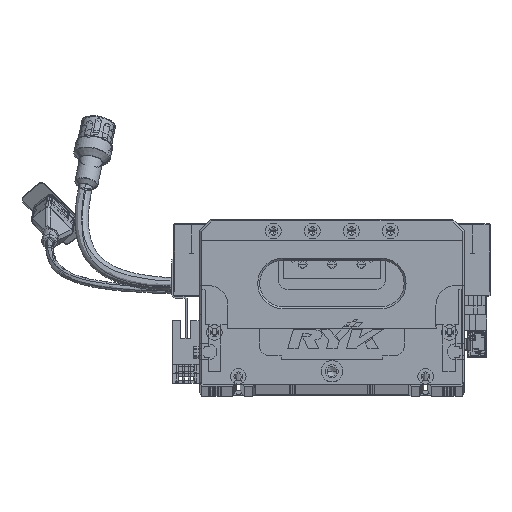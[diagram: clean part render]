
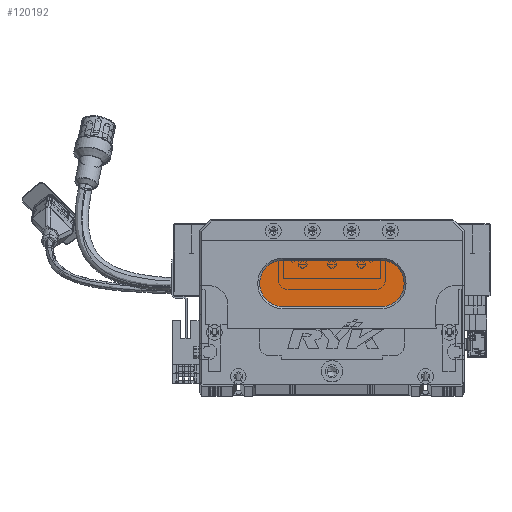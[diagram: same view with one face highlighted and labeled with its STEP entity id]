
A CAD part, top view. The second image highlights one B-rep face of the part: STEP entity #120192.
In plain terms, the highlighted planar face has unit normal (0, 0, 1) as drawn and (0, 0, -1) by its records, which use the part's own axes.
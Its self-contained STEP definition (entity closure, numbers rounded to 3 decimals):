
#505 = DIRECTION ( 'NONE',  ( -1., 0., 0. ) ) ;
#634 = EDGE_CURVE ( 'NONE', #50966, #24465, #35161, .T. ) ;
#3239 = ORIENTED_EDGE ( 'NONE', *, *, #20357, .T. ) ;
#6149 = DIRECTION ( 'NONE',  ( 0., 0., -1. ) ) ;
#10409 = DIRECTION ( 'NONE',  ( -1., 0., 0. ) ) ;
#14135 = CIRCLE ( 'NONE', #117006, 12. ) ;
#15301 = VERTEX_POINT ( 'NONE', #91779 ) ;
#20357 = EDGE_CURVE ( 'NONE', #45405, #50966, #65180, .T. ) ;
#20906 = AXIS2_PLACEMENT_3D ( 'NONE', #53288, #130375, #10409 ) ;
#23777 = DIRECTION ( 'NONE',  ( 0., 0., -1. ) ) ;
#24465 = VERTEX_POINT ( 'NONE', #97823 ) ;
#35161 = LINE ( 'NONE', #120465, #131628 ) ;
#44682 = EDGE_LOOP ( 'NONE', ( #3239, #98803, #74180, #58525, #113207 ) ) ;
#45405 = VERTEX_POINT ( 'NONE', #130602 ) ;
#46580 = VERTEX_POINT ( 'NONE', #55493 ) ;
#49489 = EDGE_CURVE ( 'NONE', #46580, #15301, #14135, .T. ) ;
#50966 = VERTEX_POINT ( 'NONE', #123329 ) ;
#53288 = CARTESIAN_POINT ( 'NONE',  ( 43., 52., 13. ) ) ;
#55493 = CARTESIAN_POINT ( 'NONE',  ( 31., 52., 13. ) ) ;
#58525 = ORIENTED_EDGE ( 'NONE', *, *, #49489, .T. ) ;
#60762 = CARTESIAN_POINT ( 'NONE',  ( 43., 52., 13. ) ) ;
#65180 = CIRCLE ( 'NONE', #98347, 12. ) ;
#67103 = DIRECTION ( 'NONE',  ( -1., 0., 0. ) ) ;
#72917 = VECTOR ( 'NONE', #112170, 1000. ) ;
#74180 = ORIENTED_EDGE ( 'NONE', *, *, #93414, .T. ) ;
#77942 = LINE ( 'NONE', #134321, #72917 ) ;
#88489 = PLANE ( 'NONE',  #110154 ) ;
#91779 = CARTESIAN_POINT ( 'NONE',  ( 43., 64., 13. ) ) ;
#93414 = EDGE_CURVE ( 'NONE', #24465, #46580, #128874, .T. ) ;
#97823 = CARTESIAN_POINT ( 'NONE',  ( 43., 40., 13. ) ) ;
#98245 = CARTESIAN_POINT ( 'NONE',  ( 93., 52., 13. ) ) ;
#98347 = AXIS2_PLACEMENT_3D ( 'NONE', #98245, #98728, #505 ) ;
#98728 = DIRECTION ( 'NONE',  ( 0., 0., -1. ) ) ;
#98803 = ORIENTED_EDGE ( 'NONE', *, *, #634, .T. ) ;
#98924 = CARTESIAN_POINT ( 'NONE',  ( 93., 52., 13. ) ) ;
#100053 = EDGE_CURVE ( 'NONE', #15301, #45405, #77942, .T. ) ;
#110154 = AXIS2_PLACEMENT_3D ( 'NONE', #98924, #23777, #67103 ) ;
#112170 = DIRECTION ( 'NONE',  ( 1., 0., 0. ) ) ;
#113207 = ORIENTED_EDGE ( 'NONE', *, *, #100053, .T. ) ;
#117006 = AXIS2_PLACEMENT_3D ( 'NONE', #60762, #6149, #136003 ) ;
#120192 = ADVANCED_FACE ( 'NONE', ( #135537 ), #88489, .T. ) ;
#120465 = CARTESIAN_POINT ( 'NONE',  ( 93., 40., 13. ) ) ;
#123329 = CARTESIAN_POINT ( 'NONE',  ( 93., 40., 13. ) ) ;
#128874 = CIRCLE ( 'NONE', #20906, 12. ) ;
#130375 = DIRECTION ( 'NONE',  ( 0., 0., -1. ) ) ;
#130602 = CARTESIAN_POINT ( 'NONE',  ( 93., 64., 13. ) ) ;
#131628 = VECTOR ( 'NONE', #131784, 1000. ) ;
#131784 = DIRECTION ( 'NONE',  ( -1., 0., 0. ) ) ;
#134321 = CARTESIAN_POINT ( 'NONE',  ( 93., 64., 13. ) ) ;
#135537 = FACE_OUTER_BOUND ( 'NONE', #44682, .T. ) ;
#136003 = DIRECTION ( 'NONE',  ( -1., 0., 0. ) ) ;
